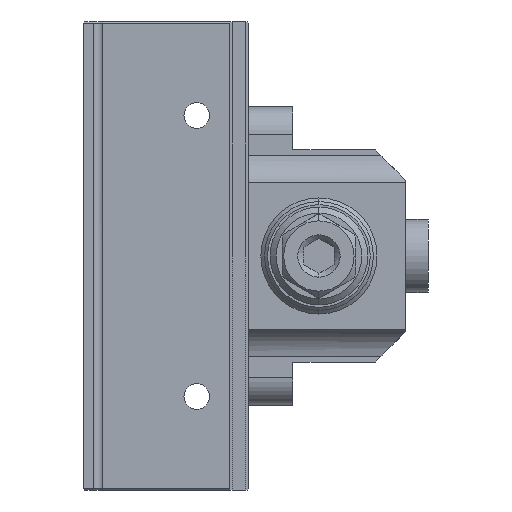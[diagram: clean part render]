
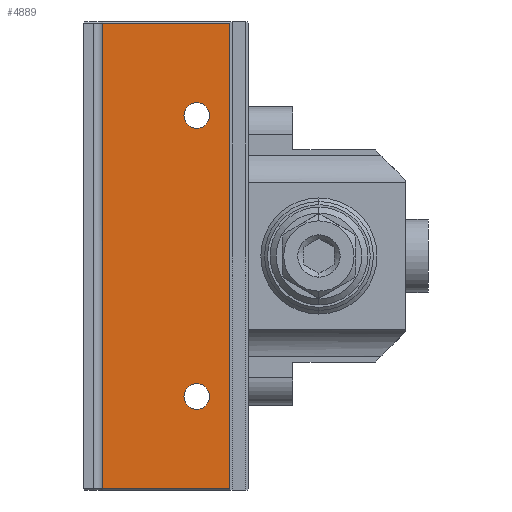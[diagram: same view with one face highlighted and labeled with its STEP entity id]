
A CAD part, left-side view. The second image highlights one B-rep face of the part: STEP entity #4889.
In plain terms, the highlighted planar face has unit normal (-1, 0, 0).
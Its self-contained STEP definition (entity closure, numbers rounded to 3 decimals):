
#19 = DIRECTION ( 'NONE',  ( -1., 0., 0. ) ) ;
#93 = CARTESIAN_POINT ( 'NONE',  ( -11.5, 20., -23. ) ) ;
#95 = CIRCLE ( 'NONE', #3000, 2.1 ) ;
#107 = VECTOR ( 'NONE', #3576, 1000. ) ;
#230 = EDGE_LOOP ( 'NONE', ( #2733, #1394 ) ) ;
#336 = DIRECTION ( 'NONE',  ( 0., 0., 1. ) ) ;
#396 = ORIENTED_EDGE ( 'NONE', *, *, #4543, .T. ) ;
#515 = CARTESIAN_POINT ( 'NONE',  ( -11.5, 20., -23. ) ) ;
#554 = EDGE_LOOP ( 'NONE', ( #6854, #5293 ) ) ;
#566 = CARTESIAN_POINT ( 'NONE',  ( -11.5, 4.25, -38.1 ) ) ;
#750 = EDGE_CURVE ( 'NONE', #7105, #7537, #6632, .T. ) ;
#765 = VERTEX_POINT ( 'NONE', #3527 ) ;
#773 = EDGE_CURVE ( 'NONE', #7105, #1047, #6758, .T. ) ;
#812 = CARTESIAN_POINT ( 'NONE',  ( -11.5, 20., 20.9 ) ) ;
#1047 = VERTEX_POINT ( 'NONE', #1537 ) ;
#1082 = DIRECTION ( 'NONE',  ( 0., 1., 0. ) ) ;
#1276 = VERTEX_POINT ( 'NONE', #6218 ) ;
#1394 = ORIENTED_EDGE ( 'NONE', *, *, #2976, .F. ) ;
#1458 = EDGE_CURVE ( 'NONE', #1276, #2612, #5380, .T. ) ;
#1537 = CARTESIAN_POINT ( 'NONE',  ( -11.5, 35.5, 38.1 ) ) ;
#1616 = CARTESIAN_POINT ( 'NONE',  ( -11.5, 35.5, 38.3 ) ) ;
#1706 = CIRCLE ( 'NONE', #6101, 2.1 ) ;
#1724 = DIRECTION ( 'NONE',  ( -1., 0., 0. ) ) ;
#1765 = DIRECTION ( 'NONE',  ( 0., 0., 1. ) ) ;
#2058 = CARTESIAN_POINT ( 'NONE',  ( -11.5, 14.7, 38.1 ) ) ;
#2294 = LINE ( 'NONE', #566, #107 ) ;
#2500 = VERTEX_POINT ( 'NONE', #3914 ) ;
#2612 = VERTEX_POINT ( 'NONE', #2802 ) ;
#2622 = CARTESIAN_POINT ( 'NONE',  ( -11.5, 4.25, 24.4 ) ) ;
#2702 = FACE_OUTER_BOUND ( 'NONE', #3673, .T. ) ;
#2733 = ORIENTED_EDGE ( 'NONE', *, *, #5448, .F. ) ;
#2802 = CARTESIAN_POINT ( 'NONE',  ( -11.5, 20., -20.9 ) ) ;
#2843 = DIRECTION ( 'NONE',  ( 0., 0., 1. ) ) ;
#2976 = EDGE_CURVE ( 'NONE', #7050, #2500, #95, .T. ) ;
#3000 = AXIS2_PLACEMENT_3D ( 'NONE', #3234, #5588, #336 ) ;
#3234 = CARTESIAN_POINT ( 'NONE',  ( -11.5, 20., 23. ) ) ;
#3527 = CARTESIAN_POINT ( 'NONE',  ( -11.5, 35.5, -38.1 ) ) ;
#3576 = DIRECTION ( 'NONE',  ( 0., -1., 0. ) ) ;
#3609 = CARTESIAN_POINT ( 'NONE',  ( -11.5, 20., 23. ) ) ;
#3673 = EDGE_LOOP ( 'NONE', ( #5603, #6925, #4158, #396 ) ) ;
#3891 = VECTOR ( 'NONE', #6907, 1000. ) ;
#3914 = CARTESIAN_POINT ( 'NONE',  ( -11.5, 20., 25.1 ) ) ;
#3922 = PLANE ( 'NONE',  #5414 ) ;
#3955 = FACE_BOUND ( 'NONE', #554, .T. ) ;
#4158 = ORIENTED_EDGE ( 'NONE', *, *, #4415, .T. ) ;
#4415 = EDGE_CURVE ( 'NONE', #1047, #765, #7473, .T. ) ;
#4419 = DIRECTION ( 'NONE',  ( -1., 0., 0. ) ) ;
#4421 = CARTESIAN_POINT ( 'NONE',  ( -11.5, 14.7, 38.3 ) ) ;
#4433 = DIRECTION ( 'NONE',  ( 0., 0., -1. ) ) ;
#4490 = FACE_BOUND ( 'NONE', #230, .T. ) ;
#4543 = EDGE_CURVE ( 'NONE', #765, #7537, #2294, .T. ) ;
#4612 = VECTOR ( 'NONE', #1082, 1000. ) ;
#4821 = CARTESIAN_POINT ( 'NONE',  ( -11.5, 14.7, -38.1 ) ) ;
#4889 = ADVANCED_FACE ( 'NONE', ( #2702, #4490, #3955 ), #3922, .T. ) ;
#4947 = EDGE_CURVE ( 'NONE', #2612, #1276, #5707, .T. ) ;
#5012 = DIRECTION ( 'NONE',  ( 0., 0., 1. ) ) ;
#5293 = ORIENTED_EDGE ( 'NONE', *, *, #1458, .F. ) ;
#5380 = CIRCLE ( 'NONE', #5648, 2.1 ) ;
#5414 = AXIS2_PLACEMENT_3D ( 'NONE', #2622, #4419, #5012 ) ;
#5448 = EDGE_CURVE ( 'NONE', #2500, #7050, #1706, .T. ) ;
#5525 = DIRECTION ( 'NONE',  ( 0., 0., 1. ) ) ;
#5588 = DIRECTION ( 'NONE',  ( -1., 0., 0. ) ) ;
#5603 = ORIENTED_EDGE ( 'NONE', *, *, #750, .F. ) ;
#5648 = AXIS2_PLACEMENT_3D ( 'NONE', #515, #19, #2843 ) ;
#5707 = CIRCLE ( 'NONE', #6297, 2.1 ) ;
#5983 = VECTOR ( 'NONE', #4433, 1000. ) ;
#6101 = AXIS2_PLACEMENT_3D ( 'NONE', #3609, #1724, #1765 ) ;
#6186 = CARTESIAN_POINT ( 'NONE',  ( -11.5, 4.25, 38.1 ) ) ;
#6218 = CARTESIAN_POINT ( 'NONE',  ( -11.5, 20., -25.1 ) ) ;
#6297 = AXIS2_PLACEMENT_3D ( 'NONE', #93, #6732, #5525 ) ;
#6632 = LINE ( 'NONE', #4421, #5983 ) ;
#6732 = DIRECTION ( 'NONE',  ( -1., 0., 0. ) ) ;
#6758 = LINE ( 'NONE', #6186, #4612 ) ;
#6854 = ORIENTED_EDGE ( 'NONE', *, *, #4947, .F. ) ;
#6907 = DIRECTION ( 'NONE',  ( 0., 0., -1. ) ) ;
#6925 = ORIENTED_EDGE ( 'NONE', *, *, #773, .T. ) ;
#7050 = VERTEX_POINT ( 'NONE', #812 ) ;
#7105 = VERTEX_POINT ( 'NONE', #2058 ) ;
#7473 = LINE ( 'NONE', #1616, #3891 ) ;
#7537 = VERTEX_POINT ( 'NONE', #4821 ) ;
